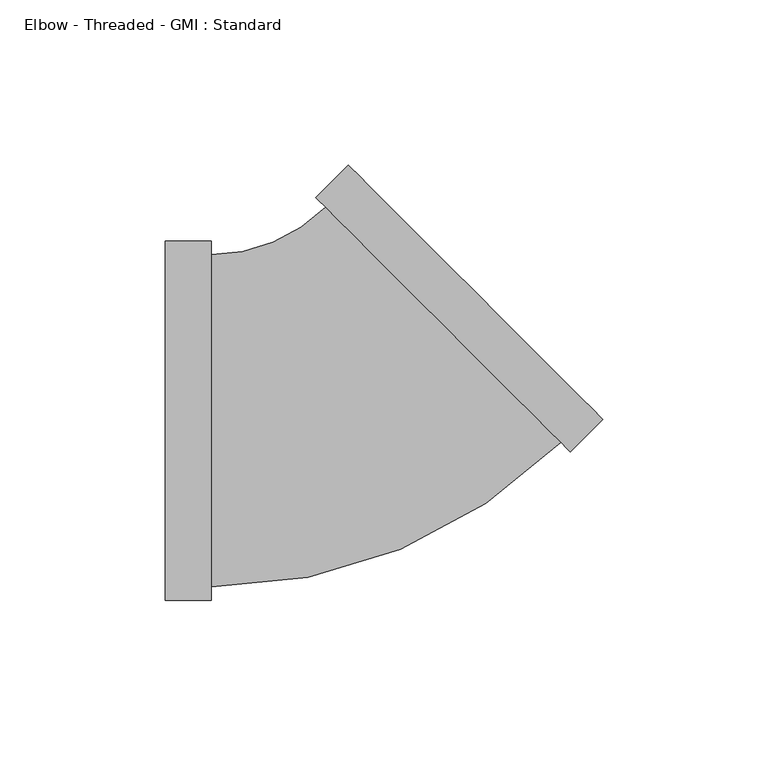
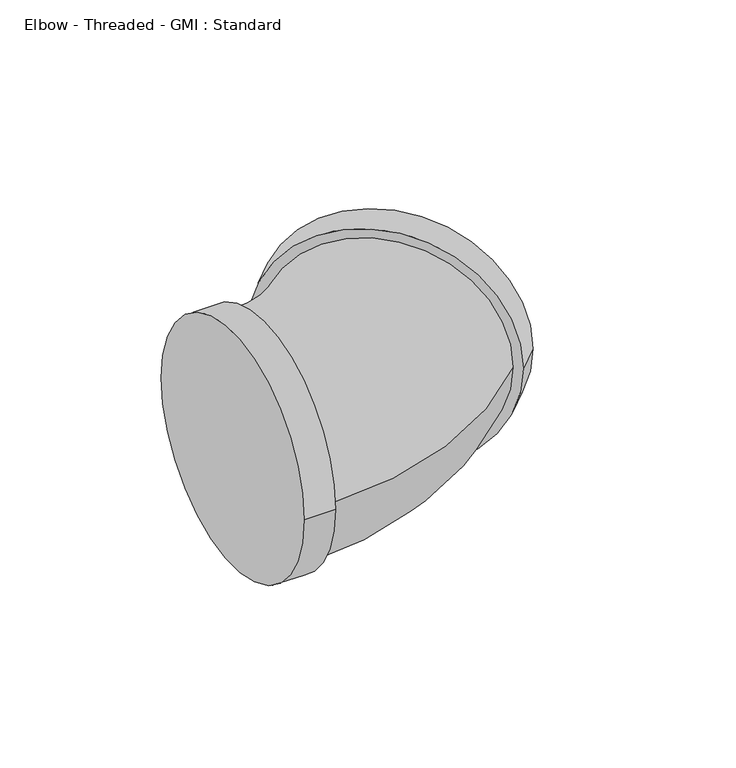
"""IFC4 building model written with IfcOpenShell, lengths in millimetres: pipe fitting geometry, Elbow - Threaded - GMI : Standard."""

from ifc_helpers import new_model, si_unit, point, frame, origin, place, context, project, spatial, circle_curve, ellipse_curve, trimmed, source, transform, mapped, element, save
from ifc_brep_helpers import plane_surface, cylinder_surface, revolved_surface, advanced_brep


def elbow_threaded_gmi_standard_daf5d13d(model_context):
    return source(origin(), model_context, "Body", "AdvancedBrep", [
        advanced_brep(
        [(-55.0, -54.4, 0.0), (-55.0, 54.4, 0.0), (-41.1, -54.4, 0.0), (-41.1, 54.4, 0.0), (-41.1, -50.32, 0.0), (-41.1, 50.32, 0.0), (67.5286976, -9.4045202, 0.0), (-9.4045202, 67.5286976, 0.0), (-6.5195245, 64.6437019, 0.0), (64.6437019, -6.5195245, 0.0), (77.3574819, 0.4242641, 0.0), (0.4242641, 77.3574819, 0.0)],
        [
            (0, 1, circle_curve(frame((-55.0, 0.0, 0.0), z_axis=(-1.0, 0.0, 0.0), x_axis=(0.0, 1.0, 0.0)), 54.4)),
            (1, 0, circle_curve(frame((-55.0, 0.0, 0.0), z_axis=(-1.0, 0.0, 0.0), x_axis=(0.0, 1.0, 0.0)), 54.4)),
            (2, 3, circle_curve(frame((-41.1, 0.0, 0.0), z_axis=(1.0, 0.0, 0.0), x_axis=(0.0, 1.0, 0.0)), 54.4)),
            (3, 2, circle_curve(frame((-41.1, 0.0, 0.0), z_axis=(1.0, 0.0, 0.0), x_axis=(0.0, 1.0, 0.0)), 54.4)),
            (4, 5, circle_curve(frame((-41.1, 0.0, 0.0), z_axis=(-1.0, 0.0, 0.0), x_axis=(0.0, 1.0, 0.0)), 50.32)),
            (5, 4, circle_curve(frame((-41.1, 0.0, 0.0), z_axis=(-1.0, 0.0, 0.0), x_axis=(0.0, 1.0, 0.0)), 50.32)),
            (0, 2),
            (3, 1),
            (6, 7, circle_curve(frame((29.0620887, 29.0620887, 0.0), z_axis=(-0.7071067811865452, -0.7071067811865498, 0.0), x_axis=(-0.7071067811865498, 0.7071067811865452, 0.0)), 54.4)),
            (7, 6, circle_curve(frame((29.0620887, 29.0620887, 0.0), z_axis=(-0.7071067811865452, -0.7071067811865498, 0.0), x_axis=(-0.7071067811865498, 0.7071067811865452, 0.0)), 54.4)),
            (8, 9, circle_curve(frame((29.0620887, 29.0620887, 0.0), z_axis=(0.7071067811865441, 0.7071067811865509, 0.0), x_axis=(-0.7071067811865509, 0.7071067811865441, 0.0)), 50.32)),
            (9, 8, circle_curve(frame((29.0620887, 29.0620887, 0.0), z_axis=(0.7071067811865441, 0.7071067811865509, 0.0), x_axis=(-0.7071067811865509, 0.7071067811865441, 0.0)), 50.32)),
            (10, 11, circle_curve(frame((38.890873, 38.890873, 0.0), z_axis=(0.7071067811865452, 0.7071067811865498, 0.0), x_axis=(-0.7071067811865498, 0.7071067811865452, 0.0)), 54.4)),
            (11, 10, circle_curve(frame((38.890873, 38.890873, 0.0), z_axis=(0.7071067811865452, 0.7071067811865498, 0.0), x_axis=(-0.7071067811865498, 0.7071067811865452, 0.0)), 54.4)),
            (6, 10),
            (11, 7),
            (8, 5, circle_curve(frame((-41.1, 99.2241774, 0.0), z_axis=(0.0, 0.0, -1.0), x_axis=(0.0, -1.0, 0.0)), 48.9041774)),
            (4, 9, circle_curve(frame((-41.1, 99.2241774, 0.0), z_axis=(0.0, 0.0, 1.0), x_axis=(0.0, -1.0, 0.0)), 149.5441774)),
        ],
        [
            plane_surface(frame((-55.0, 0.0, 0.0), z_axis=(-1.0, 0.0, 0.0), x_axis=(0.0, 0.0, 1.0))),
            plane_surface(frame((-41.1, 0.0, 0.0), z_axis=(1.0, 0.0, 0.0), x_axis=(0.0, 0.0, 1.0))),
            cylinder_surface(frame((-55.0, 0.0, 0.0), z_axis=(-1.0, 0.0, 0.0), x_axis=(0.0, 1.0, 0.0)), 54.4),
            plane_surface(frame((29.0620887, 29.0620887, 0.0), z_axis=(-0.7071067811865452, -0.7071067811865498, 0.0), x_axis=(0.0, 0.0, 1.0))),
            plane_surface(frame((38.890873, 38.890873, 0.0), z_axis=(0.7071067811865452, 0.7071067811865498, 0.0), x_axis=(0.0, 0.0, 1.0))),
            cylinder_surface(frame((29.0620887, 29.0620887, 0.0), z_axis=(-0.7071067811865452, -0.7071067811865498, 0.0), x_axis=(-0.7071067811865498, 0.7071067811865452, 0.0)), 54.4),
            revolved_surface(trimmed(ellipse_curve(frame((-41.1, 0.0, 0.0), z_axis=(-1.0, 0.0, 0.0), x_axis=(0.0, 1.0, 0.0)), 50.32, 50.32), [point((-41.1, -50.32, 0.0))], [point((-41.1, 50.32, 0.0))], True, "CARTESIAN"), (-41.1, 99.2241774, 0.0), (0.0, 0.0, 1.0)),
            revolved_surface(trimmed(ellipse_curve(frame((-41.1, 0.0, 0.0), z_axis=(-1.0, 0.0, 0.0), x_axis=(0.0, 1.0, 0.0)), 50.32, 50.32), [point((-41.1, 50.32, 0.0))], [point((-41.1, -50.32, 0.0))], True, "CARTESIAN"), (-41.1, 99.2241774, 0.0), (0.0, 0.0, 1.0)),
        ],
        [
            (0, [[1, 2]]),
            (1, [[3, 4], [5, 6]]),
            (2, [[-1, 7, -4, 8]]),
            (2, [[-2, -8, -3, -7]]),
            (3, [[9, 10], [11, 12]]),
            (4, [[13, 14]]),
            (5, [[-9, 15, -14, 16]]),
            (5, [[-10, -16, -13, -15]]),
            (6, [[17, -5, 18, -11]]),
            (7, [[-17, -12, -18, -6]]),
        ],
    ),
    ])


if __name__ == "__main__":
    model = new_model("IFC4")
    model_context = context("Model", 3, world=origin())
    ifc_project = project(units=[si_unit("LENGTHUNIT", "METRE", prefix="MILLI")], contexts=[model_context])
    site = spatial("IfcSite", under=ifc_project)
    building = spatial("IfcBuilding", under=site)
    placement = place(None, origin())
    elbow_threaded_gmi_standard_shape = elbow_threaded_gmi_standard_daf5d13d(model_context)
    element("IfcPipeFitting", 1, ObjectType="Elbow - Threaded - GMI : Standard", at=placement, inside=building, context=model_context, shape_type="MappedRepresentation", body=[
        mapped(elbow_threaded_gmi_standard_shape, transform((0.0, 0.0, 0.0), x_axis=(1.0, 0.0, 0.0), y_axis=(0.0, 1.0, 0.0), z_axis=(0.0, 0.0, 1.0))),
    ])
    save(model, "model.ifc")
